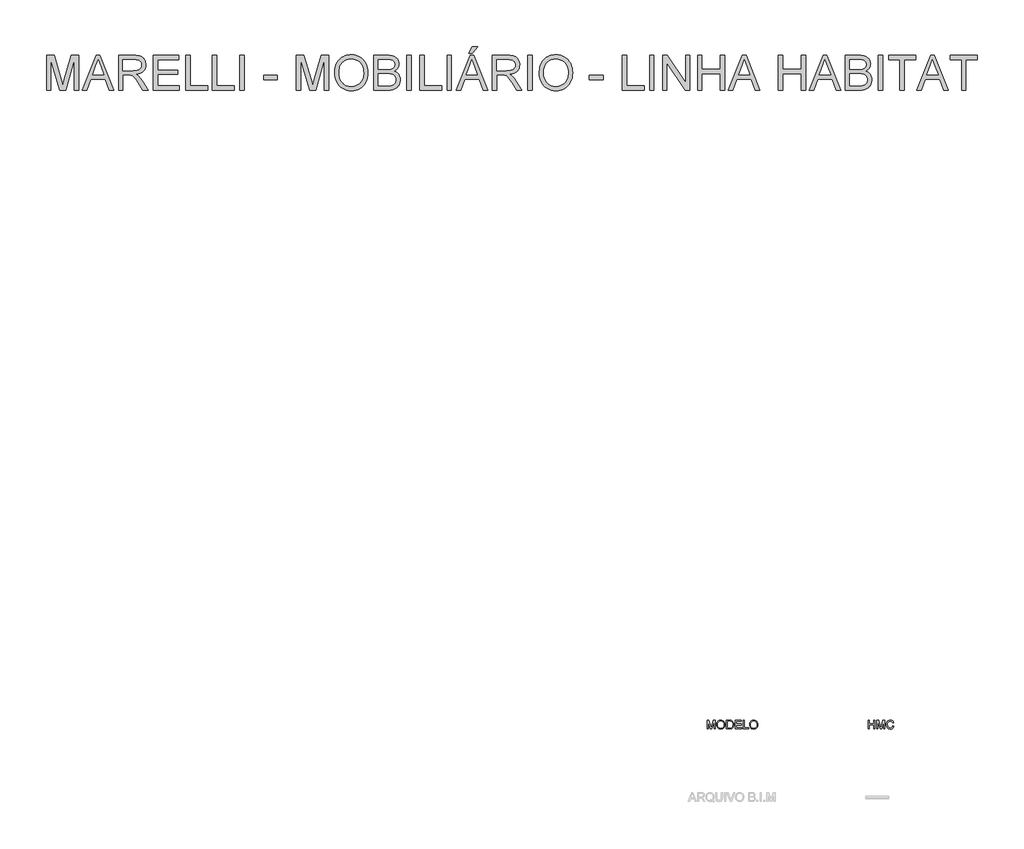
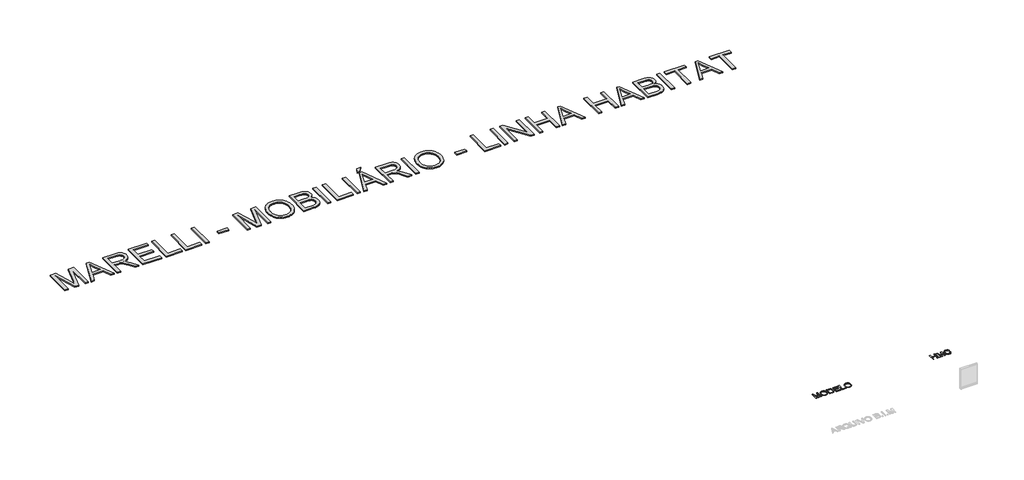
# One storey, part 8 of 8: 3 proxies.
"""IFC4 building model written with IfcOpenShell, lengths in millimetres."""

from ifc_helpers import new_model, si_unit, origin, origin_with_axes, place, context, project, spatial, polyline, outline, extrude, element, save

model = new_model("IFC4")

# Units and contexts
model_context = context("Model", 3, world=origin())
ifc_project = project(units=[si_unit("LENGTHUNIT", "METRE", prefix="MILLI")], contexts=[model_context])

# Site, building, storey
site = spatial("IfcSite", under=ifc_project)
building = spatial("IfcBuilding", under=site)
storey = spatial("IfcBuildingStorey", under=building, Name="Marelli - Linha HABITAT - Planta Baixa", Elevation=0.0)

# Proxies
placement = place(None, origin())
element("IfcBuildingElementProxy", 1, Name="1200mm Arial", ObjectType="1200mm Arial", at=placement, inside=storey, context=model_context, shape_type="SweptSolid", body=[
    extrude(outline(polyline([(7231.5865402, 28269.4336799), (7231.5865402, 29474.9094017), (7490.8697704, 29474.9094017), (7737.49786, 28625.2491457), (7787.2355057, 28447.7828712), (7841.0934298, 28639.9644255), (8083.601241, 29474.9094017), (8342.8844712, 29474.9094017), (8342.8844712, 28269.4336799), (8192.200006, 28269.4336799), (8192.200006, 29324.2249365), (7889.3595476, 28269.4336799), (7685.1114639, 28269.4336799), (7382.2710054, 29324.2249365), (7382.2710054, 28269.4336799), (7231.5865402, 28269.4336799)])), origin_with_axes(), (0.0, 0.0, 1.0), 50.0),
    extrude(outline(polyline([(8466.198516, 28269.4336799), (8947.3881657, 29474.9094017), (9075.7054056, 29474.9094017), (9556.8950553, 28269.4336799), (9397.6757278, 28269.4336799), (9259.6464032, 28646.144843), (8763.1528625, 28646.144843), (8625.4178435, 28269.4336799), (8466.198516, 28269.4336799)]), holes=[polyline([(8818.4823146, 28796.8293082), (9204.6112567, 28796.8293082), (9096.0124918, 29093.1950435), (9011.5467857, 29324.2249365), (8936.4988586, 29119.093936), (8818.4823146, 28796.8293082)])]), origin_with_axes(), (0.0, 0.0, 1.0), 50.0),
    extrude(outline(polyline([(9717.8802164, 28269.4336799), (9717.8802164, 29474.9094017), (10237.3295936, 29474.9094017), (10311.890077, 29472.8768537), (10376.9408108, 29466.7792096), (10432.481795, 29456.6164695), (10478.5130296, 29442.3886334), (10517.7108562, 29423.0012522), (10552.7516163, 29397.3598771), (10583.6353098, 29365.4645082), (10610.3619367, 29327.3151453), (10631.9290187, 29284.9627306), (10647.3340772, 29240.4582062), (10656.5771123, 29193.8015722), (10659.6581241, 29144.9928285), (10654.5537614, 29083.0782887), (10639.2406733, 29026.2405204), (10613.7188599, 28974.4795237), (10577.9883211, 28927.7952985), (10556.1798166, 28906.7294558), (10531.5892045, 28887.6777669), (10474.0616575, 28855.616851), (10405.4056801, 28831.6125509), (10325.6212724, 28815.6648664), (10375.2853418, 28783.2176744), (10411.2642009, 28751.2119408), (10472.9947997, 28678.0034238), (10533.4010233, 28596.1128916), (10734.4117455, 28269.4336799), (10559.2999158, 28269.4336799), (10402.435033, 28519.2991311), (10339.6743647, 28614.6541442), (10289.1273785, 28684.6988761), (10247.0048901, 28732.9282057), (10209.5177148, 28762.8370119), (10174.0171022, 28780.384983), (10137.8543021, 28791.5318075), (10102.611207, 28795.504933), (10050.44554, 28796.8293082), (9868.5646816, 28796.8293082), (9868.5646816, 28269.4336799), (9717.8802164, 28269.4336799)]), holes=[polyline([(9868.5646816, 28947.5137734), (10205.8388948, 28947.5137734), (10302.7022241, 28952.8480624), (10342.9944997, 28959.5159235), (10377.8605158, 28968.8509292), (10408.0820217, 28981.1197937), (10434.4407666, 28996.5892316), (10456.9367506, 29015.2592429), (10475.5699737, 29037.1298275), (10490.1840859, 29061.1249306), (10500.6227375, 29086.1684974), (10506.8859285, 29112.2605279), (10508.9736588, 29139.4010221), (10504.9913362, 29177.9366611), (10493.0443684, 29212.9038448), (10473.1327555, 29244.3025731), (10445.2564973, 29272.132846), (10408.7718004, 29294.9231356), (10363.0348713, 29311.2019139), (10308.0457101, 29320.9691808), (10243.8043167, 29324.2249365), (9868.5646816, 29324.2249365), (9868.5646816, 28947.5137734)])]), origin_with_axes(), (0.0, 0.0, 1.0), 50.0),
    extrude(outline(polyline([(10923.3559382, 28269.4336799), (10923.3559382, 29474.9094017), (11789.7916132, 29474.9094017), (11789.7916132, 29324.2249365), (11074.0404034, 29324.2249365), (11074.0404034, 28966.3493316), (11752.1204969, 28966.3493316), (11752.1204969, 28815.6648664), (11074.0404034, 28815.6648664), (11074.0404034, 28420.1181452), (11808.6271714, 28420.1181452), (11808.6271714, 28269.4336799), (10923.3559382, 28269.4336799)])), origin_with_axes(), (0.0, 0.0, 1.0), 50.0),
    extrude(outline(polyline([(12034.6538692, 28269.4336799), (12034.6538692, 29474.9094017), (12185.3383345, 29474.9094017), (12185.3383345, 28420.1181452), (12788.0761954, 28420.1181452), (12788.0761954, 28269.4336799), (12034.6538692, 28269.4336799)])), origin_with_axes(), (0.0, 0.0, 1.0), 50.0),
    extrude(outline(polyline([(12957.5962187, 28269.4336799), (12957.5962187, 29474.9094017), (13108.280684, 29474.9094017), (13108.280684, 28420.1181452), (13711.0185449, 28420.1181452), (13711.0185449, 28269.4336799), (12957.5962187, 28269.4336799)])), origin_with_axes(), (0.0, 0.0, 1.0), 50.0),
    extrude(outline(polyline([(13899.3741264, 28269.4336799), (13899.3741264, 29474.9094017), (14050.0585916, 29474.9094017), (14050.0585916, 28269.4336799), (13899.3741264, 28269.4336799)])), origin_with_axes(), (0.0, 0.0, 1.0), 50.0),
    extrude(outline(polyline([(14728.1386851, 28627.3092848), (14728.1386851, 28777.9937501), (15199.0276389, 28777.9937501), (15199.0276389, 28627.3092848), (14728.1386851, 28627.3092848)])), origin_with_axes(), (0.0, 0.0, 1.0), 50.0),
    extrude(outline(polyline([(15858.2721743, 28269.4336799), (15858.2721743, 29474.9094017), (16117.5554045, 29474.9094017), (16364.1834941, 28625.2491457), (16413.9211398, 28447.7828712), (16467.7790639, 28639.9644255), (16710.2868751, 29474.9094017), (16969.5701053, 29474.9094017), (16969.5701053, 28269.4336799), (16818.8856401, 28269.4336799), (16818.8856401, 29324.2249365), (16516.0451817, 28269.4336799), (16311.797098, 28269.4336799), (16008.9566395, 29324.2249365), (16008.9566395, 28269.4336799), (15858.2721743, 28269.4336799)])), origin_with_axes(), (0.0, 0.0, 1.0), 50.0),
    extrude(outline(polyline([(17176.761245, 28856.2790386), (17179.2720396, 28929.0047106), (17186.8044235, 28997.6744835), (17199.3583966, 29062.2883574), (17216.9339589, 29122.8463323), (17239.5311104, 29179.3484083), (17267.1498512, 29231.7945852), (17299.7901813, 29280.1848632), (17337.4521005, 29324.5192421), (17379.0825468, 29364.1815197), (17423.6284579, 29398.5554936), (17471.0898338, 29427.6411639), (17521.4666745, 29451.4385304), (17574.75898, 29469.9475933), (17630.9667504, 29483.1683525), (17690.0899855, 29491.100808), (17752.1286855, 29493.7449599), (17833.2282713, 29488.7785529), (17910.244367, 29473.8793321), (17983.1769725, 29449.0472975), (18052.0260879, 29414.2824489), (18114.8603327, 29370.6332502), (18169.7483264, 29319.148165), (18216.690069, 29259.8271932), (18255.6855605, 29192.670335), (18286.3301307, 29119.2043006), (18308.2191094, 29040.9558002), (18321.3524966, 28957.9248339), (18325.7302923, 28870.1114017), (18321.1225704, 28781.1391411), (18307.2994044, 28696.9861347), (18284.2607944, 28617.6523825), (18252.0067405, 28543.1378843), (18211.3005977, 28475.410809), (18162.9057213, 28416.4393252), (18106.8221111, 28366.2234329), (18043.0497673, 28324.763132), (17974.0994843, 28292.31594), (17902.4820569, 28269.1393743), (17828.197485, 28255.2334349), (17751.2457687, 28250.5981218), (17668.7298372, 28255.7208786), (17590.702066, 28271.0891489), (17517.1624552, 28296.7029328), (17448.1110047, 28332.5622303), (17385.3503363, 28377.2782868), (17330.6830718, 28429.4623478), (17284.1092112, 28489.1144134), (17245.6287545, 28556.2344834), (17215.4992191, 28628.1278223), (17193.9781224, 28702.0996945), (17181.0654644, 28778.1500999), (17176.761245, 28856.2790386)]), holes=[polyline([(17327.4457102, 28854.8075107), (17329.3288062, 28803.4557827), (17334.9780941, 28754.9091549), (17344.3935739, 28709.1676273), (17357.5752456, 28666.2311999), (17374.5231093, 28626.0998728), (17395.2371649, 28588.7736458), (17419.7174124, 28554.2525191), (17447.9638519, 28522.5364926), (17479.0521797, 28494.1176085), (17512.0580925, 28469.4879089), (17546.9815901, 28448.6473939), (17583.8226727, 28431.5960634), (17622.5813401, 28418.3339175), (17663.2575925, 28408.8609561), (17705.8514297, 28403.1771793), (17750.3628519, 28401.282587), (17795.688213, 28403.1955734), (17838.9580334, 28408.9345325), (17880.1723132, 28418.4994644), (17919.3310523, 28431.890369), (17956.4342508, 28449.1072464), (17991.4819086, 28470.1500965), (18024.4740258, 28495.0189194), (18055.4106023, 28523.713715), (18083.4501081, 28555.9263822), (18107.7510132, 28591.3488198), (18128.3133174, 28629.9810278), (18145.1370209, 28671.8230063), (18158.2221236, 28716.8747551), (18167.5686256, 28765.1362743), (18173.1765267, 28816.607564), (18175.0458271, 28871.288624), (18171.8452538, 28940.248104), (18162.2435337, 29004.6826355), (18146.2406669, 29064.5922184), (18123.8366534, 29119.9768528), (18095.2798135, 29170.1099717), (18060.8184676, 29214.2650081), (18020.4526157, 29252.4419622), (17974.1822578, 29284.6408338), (17923.4421336, 29310.1994354), (17869.6669829, 29328.4555794), (17812.8568058, 29339.4092659), (17753.0116023, 29343.0604947), (17710.2131306, 29341.3015589), (17668.9321723, 29336.0247515), (17629.1687271, 29327.2300726), (17590.9227952, 29314.917522), (17554.1943765, 29299.0870999), (17518.983471, 29279.7388062), (17485.2900788, 29256.872641), (17453.1141998, 29230.4886041), (17423.6606476, 29199.993486), (17398.1342356, 29164.7940768), (17376.534964, 29124.8903767), (17358.8628326, 29080.2823855), (17345.1178416, 29030.9701033), (17335.2999908, 28976.9535301), (17329.4092804, 28918.2326659), (17327.4457102, 28854.8075107)])]), origin_with_axes(), (0.0, 0.0, 1.0), 50.0),
    extrude(outline(polyline([(18532.921432, 28269.4336799), (18532.921432, 29474.9094017), (18992.9210788, 29474.9094017), (19059.6456757, 29472.6929127), (19119.4356969, 29466.0434456), (19172.2911426, 29454.9610005), (19218.2120126, 29439.4455774), (19258.3663324, 29419.3316293), (19293.9221273, 29394.4536094), (19324.8793971, 29364.8115176), (19351.2381421, 29330.405354), (19372.2901893, 29293.1756961), (19387.3273658, 29255.0631214), (19396.3496718, 29216.0676299), (19399.3571071, 29176.1892216), (19396.8279184, 29139.3550369), (19389.2403522, 29103.606104), (19376.5944086, 29068.942423), (19358.8900876, 29035.3639939), (19336.0722069, 29003.9192804), (19308.0855841, 28975.6567461), (19274.9302193, 28950.5763911), (19236.6061124, 28928.6782153), (19282.0855241, 28909.2908341), (19321.9915235, 28884.0909175), (19356.3241107, 28853.0784653), (19385.0832857, 28816.2534776), (19407.8091959, 28774.7379944), (19424.0419889, 28729.6540559), (19433.7816648, 28681.001662), (19437.0282234, 28628.7808128), (19434.8117344, 28585.9869397), (19428.1622673, 28544.7197769), (19417.0798222, 28504.9793244), (19401.564399, 28466.7655821), (19382.7748261, 28431.4673047), (19361.8699318, 28400.4732466), (19338.8497159, 28373.7834079), (19313.7141786, 28351.3977885), (19285.8747086, 28332.3966834), (19254.7426948, 28315.8603877), (19220.3181371, 28301.7889014), (19182.6010355, 28290.1822245), (19141.0027789, 28281.1047362), (19094.9347561, 28274.6208161), (18989.3894116, 28269.4336799), (18532.921432, 28269.4336799)]), holes=[polyline([(18683.6058973, 28985.1848897), (18958.7816296, 28985.1848897), (19055.0195596, 28988.4222513), (19119.4724851, 28998.134336), (19149.5744294, 29007.9108), (19175.7216422, 29020.4647731), (19197.9141236, 29035.7962552), (19216.1518735, 29053.9052464), (19230.3797096, 29074.662988), (19240.5424498, 29097.9407213), (19246.6400938, 29123.7384462), (19248.6726418, 29152.0561628), (19246.7780496, 29179.1690658), (19241.0942727, 29204.5897117), (19231.6213114, 29228.3181004), (19218.3591654, 29250.3542319), (19201.5653524, 29269.8795688), (19181.4973895, 29286.0755736), (19158.1552769, 29298.9422464), (19131.5390146, 29308.4795871), (19098.245694, 29315.3681775), (19054.8724068, 29320.2885992), (18937.8859323, 29324.2249365), (18683.6058973, 29324.2249365), (18683.6058973, 28985.1848897)]), polyline([(18683.6058973, 28420.1181452), (18992.6267732, 28420.1181452), (19060.3170603, 28421.5896731), (19104.4628997, 28426.0042571), (19156.3710493, 28439.0640679), (19199.0821489, 28458.819331), (19233.8102092, 28487.1094565), (19261.7692409, 28525.7738542), (19272.5205922, 28548.5641438), (19280.2001288, 28573.0834788), (19284.8078508, 28599.3318591), (19286.3437582, 28627.3092848), (19284.5411364, 28659.9036296), (19279.133271, 28690.2906824), (19270.1201622, 28718.4704432), (19257.5018097, 28744.4429121), (19240.8459524, 28767.463128), (19219.7203288, 28786.7861297), (19194.124939, 28802.4119175), (19164.059783, 28814.3404912), (19128.2004855, 28823.160462), (19085.2226714, 28829.4604412), (18977.9114934, 28834.5004245), (18683.6058973, 28834.5004245), (18683.6058973, 28420.1181452)])]), origin_with_axes(), (0.0, 0.0, 1.0), 50.0),
    extrude(outline(polyline([(19663.0549212, 28269.4336799), (19663.0549212, 29474.9094017), (19813.7393864, 29474.9094017), (19813.7393864, 28269.4336799), (19663.0549212, 28269.4336799)])), origin_with_axes(), (0.0, 0.0, 1.0), 50.0),
    extrude(outline(polyline([(20115.1083169, 28269.4336799), (20115.1083169, 29474.9094017), (20265.7927821, 29474.9094017), (20265.7927821, 28420.1181452), (20868.530643, 28420.1181452), (20868.530643, 28269.4336799), (20115.1083169, 28269.4336799)])), origin_with_axes(), (0.0, 0.0, 1.0), 50.0),
    extrude(outline(polyline([(21056.8862245, 28269.4336799), (21056.8862245, 29474.9094017), (21207.5706898, 29474.9094017), (21207.5706898, 28269.4336799), (21056.8862245, 28269.4336799)])), origin_with_axes(), (0.0, 0.0, 1.0), 50.0),
    extrude(outline(polyline([(21368.5558509, 28269.4336799), (21849.7455005, 29474.9094017), (21978.0627405, 29474.9094017), (22459.2523902, 28269.4336799), (22300.0330626, 28269.4336799), (22162.0037381, 28646.144843), (21665.5101974, 28646.144843), (21527.7751784, 28269.4336799), (21368.5558509, 28269.4336799)]), holes=[polyline([(21720.8396494, 28796.8293082), (22106.9685916, 28796.8293082), (21998.3698266, 29093.1950435), (21913.9041205, 29324.2249365), (21838.8561935, 29119.093936), (21720.8396494, 28796.8293082)])]), origin_with_axes(), (0.0, 0.0, 1.0), 50.0),
    extrude(outline(polyline([(21810.3085507, 29550.2516343), (21923.3218996, 29776.2783322), (22111.6774811, 29776.2783322), (21923.3218996, 29550.2516343), (21810.3085507, 29550.2516343)])), origin_with_axes(), (0.0, 0.0, 1.0), 50.0),
    extrude(outline(polyline([(22620.2375512, 28269.4336799), (22620.2375512, 29474.9094017), (23139.6869284, 29474.9094017), (23214.2474118, 29472.8768537), (23279.2981456, 29466.7792096), (23334.8391298, 29456.6164695), (23380.8703645, 29442.3886334), (23420.0681911, 29423.0012522), (23455.1089511, 29397.3598771), (23485.9926446, 29365.4645082), (23512.7192715, 29327.3151453), (23534.2863535, 29284.9627306), (23549.6914121, 29240.4582062), (23558.9344472, 29193.8015722), (23562.0154589, 29144.9928285), (23556.9110962, 29083.0782887), (23541.5980082, 29026.2405204), (23516.0761947, 28974.4795237), (23480.345656, 28927.7952985), (23458.5371514, 28906.7294558), (23433.9465393, 28887.6777669), (23376.4189923, 28855.616851), (23307.763015, 28831.6125509), (23227.9786073, 28815.6648664), (23277.6426766, 28783.2176744), (23313.6215358, 28751.2119408), (23375.3521345, 28678.0034238), (23435.7583582, 28596.1128916), (23636.7690803, 28269.4336799), (23461.6572506, 28269.4336799), (23304.7923679, 28519.2991311), (23242.0316995, 28614.6541442), (23191.4847134, 28684.6988761), (23149.3622249, 28732.9282057), (23111.8750496, 28762.8370119), (23076.3744371, 28780.384983), (23040.2116369, 28791.5318075), (23004.9685418, 28795.504933), (22952.8028749, 28796.8293082), (22770.9220165, 28796.8293082), (22770.9220165, 28269.4336799), (22620.2375512, 28269.4336799)]), holes=[polyline([(22770.9220165, 28947.5137734), (23108.1962296, 28947.5137734), (23205.059559, 28952.8480624), (23245.3518345, 28959.5159235), (23280.2178506, 28968.8509292), (23310.4393565, 28981.1197937), (23336.7981015, 28996.5892316), (23359.2940855, 29015.2592429), (23377.9273085, 29037.1298275), (23392.5414208, 29061.1249306), (23402.9800724, 29086.1684974), (23409.2432634, 29112.2605279), (23411.3309937, 29139.4010221), (23407.3486711, 29177.9366611), (23395.4017033, 29212.9038448), (23375.4900903, 29244.3025731), (23347.6138321, 29272.132846), (23311.1291352, 29294.9231356), (23265.3922062, 29311.2019139), (23210.403045, 29320.9691808), (23146.1616515, 29324.2249365), (22770.9220165, 29324.2249365), (22770.9220165, 28947.5137734)])]), origin_with_axes(), (0.0, 0.0, 1.0), 50.0),
    extrude(outline(polyline([(23844.5488312, 28269.4336799), (23844.5488312, 29474.9094017), (23995.2332964, 29474.9094017), (23995.2332964, 28269.4336799), (23844.5488312, 28269.4336799)])), origin_with_axes(), (0.0, 0.0, 1.0), 50.0),
    extrude(outline(polyline([(24240.0955524, 28856.2790386), (24242.606347, 28929.0047106), (24250.1387309, 28997.6744835), (24262.692704, 29062.2883574), (24280.2682663, 29122.8463323), (24302.8654178, 29179.3484083), (24330.4841586, 29231.7945852), (24363.1244886, 29280.1848632), (24400.7864079, 29324.5192421), (24442.4168542, 29364.1815197), (24486.9627653, 29398.5554936), (24534.4241412, 29427.6411639), (24584.8009819, 29451.4385304), (24638.0932874, 29469.9475933), (24694.3010578, 29483.1683525), (24753.4242929, 29491.100808), (24815.4629929, 29493.7449599), (24896.5625787, 29488.7785529), (24973.5786744, 29473.8793321), (25046.5112799, 29449.0472975), (25115.3603953, 29414.2824489), (25178.1946401, 29370.6332502), (25233.0826338, 29319.148165), (25280.0243764, 29259.8271932), (25319.0198679, 29192.670335), (25349.6644381, 29119.2043006), (25371.5534168, 29040.9558002), (25384.686804, 28957.9248339), (25389.0645997, 28870.1114017), (25384.4568778, 28781.1391411), (25370.6337118, 28696.9861347), (25347.5951018, 28617.6523825), (25315.3410479, 28543.1378843), (25274.6349051, 28475.410809), (25226.2400287, 28416.4393252), (25170.1564185, 28366.2234329), (25106.3840746, 28324.763132), (25037.4337917, 28292.31594), (24965.8163643, 28269.1393743), (24891.5317924, 28255.2334349), (24814.5800761, 28250.5981218), (24732.0641446, 28255.7208786), (24654.0363734, 28271.0891489), (24580.4967625, 28296.7029328), (24511.445312, 28332.5622303), (24448.6846437, 28377.2782868), (24394.0173792, 28429.4623478), (24347.4435186, 28489.1144134), (24308.9630619, 28556.2344834), (24278.8335265, 28628.1278223), (24257.3124298, 28702.0996945), (24244.3997718, 28778.1500999), (24240.0955524, 28856.2790386)]), holes=[polyline([(24390.7800176, 28854.8075107), (24392.6631136, 28803.4557827), (24398.3124015, 28754.9091549), (24407.7278813, 28709.1676273), (24420.909553, 28666.2311999), (24437.8574167, 28626.0998728), (24458.5714723, 28588.7736458), (24483.0517198, 28554.2525191), (24511.2981593, 28522.5364926), (24542.3864871, 28494.1176085), (24575.3923999, 28469.4879089), (24610.3158975, 28448.6473939), (24647.1569801, 28431.5960634), (24685.9156475, 28418.3339175), (24726.5918999, 28408.8609561), (24769.1857371, 28403.1771793), (24813.6971593, 28401.282587), (24859.0225204, 28403.1955734), (24902.2923408, 28408.9345325), (24943.5066205, 28418.4994644), (24982.6653597, 28431.890369), (25019.7685581, 28449.1072464), (25054.816216, 28470.1500965), (25087.8083332, 28495.0189194), (25118.7449097, 28523.713715), (25146.7844155, 28555.9263822), (25171.0853206, 28591.3488198), (25191.6476248, 28629.9810278), (25208.4713283, 28671.8230063), (25221.556431, 28716.8747551), (25230.902933, 28765.1362743), (25236.5108341, 28816.607564), (25238.3801345, 28871.288624), (25235.1795612, 28940.248104), (25225.5778411, 29004.6826355), (25209.5749743, 29064.5922184), (25187.1709608, 29119.9768528), (25158.6141209, 29170.1099717), (25124.152775, 29214.2650081), (25083.7869231, 29252.4419622), (25037.5165652, 29284.6408338), (24986.776441, 29310.1994354), (24933.0012903, 29328.4555794), (24876.1911132, 29339.4092659), (24816.3459097, 29343.0604947), (24773.547438, 29341.3015589), (24732.2664797, 29336.0247515), (24692.5030345, 29327.2300726), (24654.2571026, 29314.917522), (24617.5286839, 29299.0870999), (24582.3177784, 29279.7388062), (24548.6243862, 29256.872641), (24516.4485072, 29230.4886041), (24486.9949549, 29199.993486), (24461.468543, 29164.7940768), (24439.8692714, 29124.8903767), (24422.19714, 29080.2823855), (24408.452149, 29030.9701033), (24398.6342982, 28976.9535301), (24392.7435878, 28918.2326659), (24390.7800176, 28854.8075107)])]), origin_with_axes(), (0.0, 0.0, 1.0), 50.0),
    extrude(outline(polyline([(25972.9669025, 28627.3092848), (25972.9669025, 28777.9937501), (26443.8558563, 28777.9937501), (26443.8558563, 28627.3092848), (25972.9669025, 28627.3092848)])), origin_with_axes(), (0.0, 0.0, 1.0), 50.0),
    extrude(outline(polyline([(27103.1003917, 28269.4336799), (27103.1003917, 29474.9094017), (27253.7848569, 29474.9094017), (27253.7848569, 28420.1181452), (27856.5227178, 28420.1181452), (27856.5227178, 28269.4336799), (27103.1003917, 28269.4336799)])), origin_with_axes(), (0.0, 0.0, 1.0), 50.0),
    extrude(outline(polyline([(28044.8782993, 28269.4336799), (28044.8782993, 29474.9094017), (28195.5627645, 29474.9094017), (28195.5627645, 28269.4336799), (28044.8782993, 28269.4336799)])), origin_with_axes(), (0.0, 0.0, 1.0), 50.0),
    extrude(outline(polyline([(28496.931695, 28269.4336799), (28496.931695, 29474.9094017), (28658.2111617, 29474.9094017), (29288.0251374, 28519.8877422), (29288.0251374, 29474.9094017), (29438.7096026, 29474.9094017), (29438.7096026, 28269.4336799), (29277.430136, 28269.4336799), (28647.6161602, 29224.749645), (28647.6161602, 28269.4336799), (28496.931695, 28269.4336799)])), origin_with_axes(), (0.0, 0.0, 1.0), 50.0),
    extrude(outline(polyline([(29702.4074168, 28269.4336799), (29702.4074168, 29474.9094017), (29853.091882, 29474.9094017), (29853.091882, 28985.1848897), (30493.5008592, 28985.1848897), (30493.5008592, 29474.9094017), (30644.1853244, 29474.9094017), (30644.1853244, 28269.4336799), (30493.5008592, 28269.4336799), (30493.5008592, 28834.5004245), (29853.091882, 28834.5004245), (29853.091882, 28269.4336799), (29702.4074168, 28269.4336799)])), origin_with_axes(), (0.0, 0.0, 1.0), 50.0),
    extrude(outline(polyline([(30767.4993692, 28269.4336799), (31248.6890189, 29474.9094017), (31377.0062588, 29474.9094017), (31858.1959085, 28269.4336799), (31698.976581, 28269.4336799), (31560.9472564, 28646.144843), (31064.4537157, 28646.144843), (30926.7186967, 28269.4336799), (30767.4993692, 28269.4336799)]), holes=[polyline([(31119.7831678, 28796.8293082), (31505.9121099, 28796.8293082), (31397.313345, 29093.1950435), (31312.8476389, 29324.2249365), (31237.7997119, 29119.093936), (31119.7831678, 28796.8293082)])]), origin_with_axes(), (0.0, 0.0, 1.0), 50.0),
    extrude(outline(polyline([(32490.0700234, 28269.4336799), (32490.0700234, 29474.9094017), (32640.7544887, 29474.9094017), (32640.7544887, 28985.1848897), (33281.1634659, 28985.1848897), (33281.1634659, 29474.9094017), (33431.8479311, 29474.9094017), (33431.8479311, 28269.4336799), (33281.1634659, 28269.4336799), (33281.1634659, 28834.5004245), (32640.7544887, 28834.5004245), (32640.7544887, 28269.4336799), (32490.0700234, 28269.4336799)])), origin_with_axes(), (0.0, 0.0, 1.0), 50.0),
    extrude(outline(polyline([(33555.1619759, 28269.4336799), (34036.3516256, 29474.9094017), (34164.6688655, 29474.9094017), (34645.8585152, 28269.4336799), (34486.6391877, 28269.4336799), (34348.6098631, 28646.144843), (33852.1163224, 28646.144843), (33714.3813034, 28269.4336799), (33555.1619759, 28269.4336799)]), holes=[polyline([(33907.4457745, 28796.8293082), (34293.5747166, 28796.8293082), (34184.9759516, 29093.1950435), (34100.5102455, 29324.2249365), (34025.4623185, 29119.093936), (33907.4457745, 28796.8293082)])]), origin_with_axes(), (0.0, 0.0, 1.0), 50.0),
    extrude(outline(polyline([(34806.8436763, 28269.4336799), (34806.8436763, 29474.9094017), (35266.843323, 29474.9094017), (35333.5679199, 29472.6929127), (35393.3579412, 29466.0434456), (35446.2133868, 29454.9610005), (35492.1342569, 29439.4455774), (35532.2885767, 29419.3316293), (35567.8443715, 29394.4536094), (35598.8016414, 29364.8115176), (35625.1603863, 29330.405354), (35646.2124335, 29293.1756961), (35661.2496101, 29255.0631214), (35670.271916, 29216.0676299), (35673.2793513, 29176.1892216), (35670.7501626, 29139.3550369), (35663.1625964, 29103.606104), (35650.5166529, 29068.942423), (35632.8123318, 29035.3639939), (35609.9944511, 29003.9192804), (35582.0078283, 28975.6567461), (35548.8524635, 28950.5763911), (35510.5283566, 28928.6782153), (35556.0077683, 28909.2908341), (35595.9137677, 28884.0909175), (35630.2463549, 28853.0784653), (35659.0055299, 28816.2534776), (35681.7314401, 28774.7379944), (35697.9642332, 28729.6540559), (35707.703909, 28681.001662), (35710.9504676, 28628.7808128), (35708.7339786, 28585.9869397), (35702.0845115, 28544.7197769), (35691.0020664, 28504.9793244), (35675.4866433, 28466.7655821), (35656.6970704, 28431.4673047), (35635.792176, 28400.4732466), (35612.7719602, 28373.7834079), (35587.6364228, 28351.3977885), (35559.7969528, 28332.3966834), (35528.664939, 28315.8603877), (35494.2403813, 28301.7889014), (35456.5232798, 28290.1822245), (35414.9250231, 28281.1047362), (35368.8570003, 28274.6208161), (35263.3116559, 28269.4336799), (34806.8436763, 28269.4336799)]), holes=[polyline([(34957.5281415, 28985.1848897), (35232.7038739, 28985.1848897), (35328.9418038, 28988.4222513), (35393.3947294, 28998.134336), (35423.4966736, 29007.9108), (35449.6438864, 29020.4647731), (35471.8363678, 29035.7962552), (35490.0741177, 29053.9052464), (35504.3019539, 29074.662988), (35514.464694, 29097.9407213), (35520.5623381, 29123.7384462), (35522.5948861, 29152.0561628), (35520.7002938, 29179.1690658), (35515.016517, 29204.5897117), (35505.5435556, 29228.3181004), (35492.2814097, 29250.3542319), (35475.4875966, 29269.8795688), (35455.4196338, 29286.0755736), (35432.0775212, 29298.9422464), (35405.4612588, 29308.4795871), (35372.1679383, 29315.3681775), (35328.794651, 29320.2885992), (35211.8081766, 29324.2249365), (34957.5281415, 29324.2249365), (34957.5281415, 28985.1848897)]), polyline([(34957.5281415, 28420.1181452), (35266.5490174, 28420.1181452), (35334.2393046, 28421.5896731), (35378.385144, 28426.0042571), (35430.2932935, 28439.0640679), (35473.0043931, 28458.819331), (35507.7324535, 28487.1094565), (35535.6914851, 28525.7738542), (35546.4428364, 28548.5641438), (35554.1223731, 28573.0834788), (35558.7300951, 28599.3318591), (35560.2660024, 28627.3092848), (35558.4633806, 28659.9036296), (35553.0555153, 28690.2906824), (35544.0424064, 28718.4704432), (35531.424054, 28744.4429121), (35514.7681966, 28767.463128), (35493.6425731, 28786.7861297), (35468.0471833, 28802.4119175), (35437.9820272, 28814.3404912), (35402.1227297, 28823.160462), (35359.1449156, 28829.4604412), (35251.8337376, 28834.5004245), (34957.5281415, 28834.5004245), (34957.5281415, 28420.1181452)])]), origin_with_axes(), (0.0, 0.0, 1.0), 50.0),
    extrude(outline(polyline([(35936.9771655, 28269.4336799), (35936.9771655, 29474.9094017), (36087.6616307, 29474.9094017), (36087.6616307, 28269.4336799), (35936.9771655, 28269.4336799)])), origin_with_axes(), (0.0, 0.0, 1.0), 50.0),
    extrude(outline(polyline([(36690.3994916, 28269.4336799), (36690.3994916, 29324.2249365), (36294.8527704, 29324.2249365), (36294.8527704, 29474.9094017), (37236.630678, 29474.9094017), (37236.630678, 29324.2249365), (36841.0839568, 29324.2249365), (36841.0839568, 28269.4336799), (36690.3994916, 28269.4336799)])), origin_with_axes(), (0.0, 0.0, 1.0), 50.0),
    extrude(outline(polyline([(37265.766932, 28269.4336799), (37746.9565817, 29474.9094017), (37875.2738216, 29474.9094017), (38356.4634713, 28269.4336799), (38197.2441438, 28269.4336799), (38059.2148192, 28646.144843), (37562.7212785, 28646.144843), (37424.9862595, 28269.4336799), (37265.766932, 28269.4336799)]), holes=[polyline([(37618.0507306, 28796.8293082), (38004.1796728, 28796.8293082), (37895.5809078, 29093.1950435), (37811.1152017, 29324.2249365), (37736.0672747, 29119.093936), (37618.0507306, 28796.8293082)])]), origin_with_axes(), (0.0, 0.0, 1.0), 50.0),
    extrude(outline(polyline([(38818.8175629, 28269.4336799), (38818.8175629, 29324.2249365), (38423.2708417, 29324.2249365), (38423.2708417, 29474.9094017), (39365.0487493, 29474.9094017), (39365.0487493, 29324.2249365), (38969.5020281, 29324.2249365), (38969.5020281, 28269.4336799), (38818.8175629, 28269.4336799)])), origin_with_axes(), (0.0, 0.0, 1.0), 50.0),
])
element("IfcBuildingElementProxy", 2, Name="300mm Arial", ObjectType="300mm Arial", at=placement, inside=storey, context=model_context, shape_type="SweptSolid", body=[
    extrude(outline(polyline([(35588.7720603, 6219.4336799), (35588.7720603, 6520.8026104), (35626.4431766, 6520.8026104), (35626.4431766, 6398.3714824), (35786.5454209, 6398.3714824), (35786.5454209, 6520.8026104), (35824.2165372, 6520.8026104), (35824.2165372, 6219.4336799), (35786.5454209, 6219.4336799), (35786.5454209, 6360.7003661), (35626.4431766, 6360.7003661), (35626.4431766, 6219.4336799), (35588.7720603, 6219.4336799)])), origin_with_axes(), (0.0, 0.0, 1.0), 10.0),
    extrude(outline(polyline([(35890.1409908, 6219.4336799), (35890.1409908, 6520.8026104), (35954.9617983, 6520.8026104), (36016.6188207, 6308.3875464), (36029.0532321, 6264.0209777), (36042.5177132, 6312.0663663), (36103.144666, 6520.8026104), (36167.9654735, 6520.8026104), (36167.9654735, 6219.4336799), (36130.2943572, 6219.4336799), (36130.2943572, 6483.1314941), (36054.5842426, 6219.4336799), (36003.5222217, 6219.4336799), (35927.8121071, 6483.1314941), (35927.8121071, 6219.4336799), (35890.1409908, 6219.4336799)])), origin_with_axes(), (0.0, 0.0, 1.0), 10.0),
    extrude(outline(polyline([(36445.7899563, 6326.5609169), (36483.4610726, 6316.8488323), (36476.0068636, 6293.4216469), (36466.0786483, 6272.9513132), (36453.6764265, 6255.4378309), (36438.8001984, 6240.8812003), (36421.7856561, 6229.4377709), (36402.968492, 6221.2638929), (36382.3487062, 6216.359566), (36359.9262986, 6214.7247904), (36316.2311146, 6219.6728032), (36281.5306454, 6234.5168417), (36254.9327772, 6258.7418711), (36235.545396, 6291.8328566), (36223.7087928, 6330.7363776), (36219.7632584, 6372.3990135), (36224.2238276, 6416.3425179), (36237.6055352, 6454.2895457), (36259.2094054, 6485.0352834), (36288.3364623, 6507.3749176), (36322.8805817, 6520.9773543), (36360.735639, 6525.5114999), (36402.03959, 6519.6437821), (36420.0083262, 6512.3091348), (36436.1882362, 6502.0406286), (36450.3126055, 6489.1095765), (36462.1147198, 6473.7872914), (36478.752183, 6435.9690223), (36441.0810667, 6426.9927016), (36428.0212559, 6454.4642896), (36410.1789791, 6473.3090448), (36387.3335072, 6484.2075489), (36359.264111, 6487.8403836), (36326.9088895, 6483.8120758), (36300.3294154, 6471.7271522), (36280.160285, 6452.8548059), (36267.0360948, 6428.4642296), (36259.8348048, 6400.8914741), (36257.4343747, 6372.4725899), (36260.2762631, 6337.6709532), (36268.8019284, 6307.578206), (36283.3332672, 6283.3439795), (36304.1921763, 6266.1179051), (36329.1989549, 6255.8264063), (36356.1739022, 6252.3959067), (36387.6186158, 6257.068008), (36413.8210109, 6271.0843121), (36433.6038652, 6294.297666), (36445.7899563, 6326.5609169)])), origin_with_axes(), (0.0, 0.0, 1.0), 10.0),
])
element("IfcBuildingElementProxy", 3, Name="300mm Arial", ObjectType="300mm Arial", at=placement, inside=storey, context=model_context, shape_type="SweptSolid", body=[
    extrude(outline(polyline([(30033.1230948, 6219.4336799), (30033.1230948, 6520.8026104), (30097.9439023, 6520.8026104), (30159.6009247, 6308.3875464), (30172.0353362, 6264.0209777), (30185.4998172, 6312.0663663), (30246.12677, 6520.8026104), (30310.9475775, 6520.8026104), (30310.9475775, 6219.4336799), (30273.2764612, 6219.4336799), (30273.2764612, 6483.1314941), (30197.5663466, 6219.4336799), (30146.5043257, 6219.4336799), (30070.7942111, 6483.1314941), (30070.7942111, 6219.4336799), (30033.1230948, 6219.4336799)])), origin_with_axes(), (0.0, 0.0, 1.0), 10.0),
    extrude(outline(polyline([(30362.7453625, 6366.1450196), (30365.2561571, 6401.4938808), (30372.7885409, 6432.786843), (30385.342514, 6460.0239063), (30402.9180763, 6483.2050705), (30424.4621657, 6501.7141334), (30448.9217198, 6514.9348926), (30476.2967388, 6522.8673481), (30506.5872226, 6525.5114999), (30546.116143, 6520.545093), (30581.5615732, 6505.6458722), (30610.9921328, 6481.8623012), (30632.4764413, 6450.2428437), (30645.6098286, 6412.31421), (30649.9876243, 6369.6031104), (30645.3799023, 6326.3217936), (30631.5567363, 6287.859731), (30609.2814815, 6256.1850912), (30579.317493, 6233.266043), (30544.1755654, 6219.3601035), (30506.3664934, 6214.7247904), (30466.2305677, 6219.8475472), (30430.5828024, 6235.2158175), (30401.2258192, 6259.4408469), (30379.9622398, 6291.1338808), (30367.0495818, 6327.6001836), (30362.7453625, 6366.1450196)]), holes=[polyline([(30400.4164788, 6365.7771376), (30402.2995747, 6340.8025487), (30407.9488626, 6318.6330599), (30417.3643424, 6299.2686714), (30430.5460142, 6282.7093831), (30446.5695743, 6269.4472372), (30464.5107194, 6259.9742758), (30484.3694493, 6254.290499), (30506.1457642, 6252.3959067), (30528.2945596, 6254.3088931), (30548.3878143, 6260.0478522), (30566.4255284, 6269.6127841), (30582.4077018, 6283.0036887), (30595.4928045, 6299.9124649), (30604.8393064, 6320.0310115), (30610.4472076, 6343.3593285), (30612.316508, 6369.897416), (30609.1159346, 6403.2459188), (30599.5142146, 6432.0694731), (30583.7596681, 6455.641512), (30562.1006157, 6473.2354684), (30535.9717969, 6484.1891548), (30506.8079518, 6487.8403836), (30485.7880943, 6486.0814478), (30466.28575, 6480.8046405), (30448.300919, 6472.0099615), (30431.8336012, 6459.697411), (30418.0886101, 6443.2737792), (30408.2707594, 6422.1458563), (30402.3800489, 6396.3136425), (30400.4164788, 6365.7771376)])]), origin_with_axes(), (0.0, 0.0, 1.0), 10.0),
    extrude(outline(polyline([(30701.7854092, 6219.4336799), (30701.7854092, 6520.8026104), (30805.7488611, 6520.8026104), (30859.5332088, 6516.4616028), (30883.555903, 6508.0922874), (30903.826201, 6494.9037179), (30924.666716, 6471.9478814), (30939.5107545, 6443.4002386), (30948.3951047, 6409.8126124), (30951.3565547, 6371.7368259), (30949.3515979, 6339.3908015), (30943.3367273, 6310.9259321), (30934.1764656, 6286.6917057), (30922.7353355, 6267.0376101), (30909.5651601, 6251.522187), (30895.2177623, 6239.7039779), (30878.745846, 6230.9391893), (30859.202115, 6224.5840279), (30810.7520562, 6219.4336799), (30701.7854092, 6219.4336799)]), holes=[polyline([(30739.4565255, 6257.1047962), (30806.1167431, 6257.1047962), (30833.6894986, 6258.4659596), (30854.60359, 6262.5494498), (30870.3857276, 6269.1161434), (30882.5626217, 6277.9269172), (30895.6500236, 6294.2332866), (30905.48167, 6315.3405161), (30911.6344963, 6341.3405761), (30913.6854384, 6372.3254371), (30909.6663276, 6413.3810678), (30897.6089953, 6443.6945442), (30879.7943096, 6464.5166651), (30858.5031392, 6477.0982294), (30836.8348897, 6481.6231779), (30805.0866735, 6483.1314941), (30739.4565255, 6483.1314941), (30739.4565255, 6257.1047962)])]), origin_with_axes(), (0.0, 0.0, 1.0), 10.0),
    extrude(outline(polyline([(31003.1543397, 6219.4336799), (31003.1543397, 6520.8026104), (31219.7632584, 6520.8026104), (31219.7632584, 6483.1314941), (31040.825456, 6483.1314941), (31040.825456, 6393.6625928), (31210.3454794, 6393.6625928), (31210.3454794, 6355.9914765), (31040.825456, 6355.9914765), (31040.825456, 6257.1047962), (31224.472148, 6257.1047962), (31224.472148, 6219.4336799), (31003.1543397, 6219.4336799)])), origin_with_axes(), (0.0, 0.0, 1.0), 10.0),
    extrude(outline(polyline([(31280.9788224, 6219.4336799), (31280.9788224, 6520.8026104), (31318.6499387, 6520.8026104), (31318.6499387, 6257.1047962), (31469.334404, 6257.1047962), (31469.334404, 6219.4336799), (31280.9788224, 6219.4336799)])), origin_with_axes(), (0.0, 0.0, 1.0), 10.0),
    extrude(outline(polyline([(31497.5877412, 6366.1450196), (31500.0985358, 6401.4938808), (31507.6309197, 6432.786843), (31520.1848927, 6460.0239063), (31537.7604551, 6483.2050705), (31559.3045444, 6501.7141334), (31583.7640986, 6514.9348926), (31611.1391175, 6522.8673481), (31641.4296013, 6525.5114999), (31680.9585217, 6520.545093), (31716.4039519, 6505.6458722), (31745.8345115, 6481.8623012), (31767.3188201, 6450.2428437), (31780.4522073, 6412.31421), (31784.830003, 6369.6031104), (31780.222281, 6326.3217936), (31766.3991151, 6287.859731), (31744.1238603, 6256.1850912), (31714.1598717, 6233.266043), (31679.0179442, 6219.3601035), (31641.2088721, 6214.7247904), (31601.0729464, 6219.8475472), (31565.4251811, 6235.2158175), (31536.0681979, 6259.4408469), (31514.8046186, 6291.1338808), (31501.8919605, 6327.6001836), (31497.5877412, 6366.1450196)]), holes=[polyline([(31535.2588575, 6365.7771376), (31537.1419535, 6340.8025487), (31542.7912413, 6318.6330599), (31552.2067212, 6299.2686714), (31565.3883929, 6282.7093831), (31581.4119531, 6269.4472372), (31599.3530981, 6259.9742758), (31619.2118281, 6254.290499), (31640.9881429, 6252.3959067), (31663.1369383, 6254.3088931), (31683.230193, 6260.0478522), (31701.2679071, 6269.6127841), (31717.2500805, 6283.0036887), (31730.3351832, 6299.9124649), (31739.6816852, 6320.0310115), (31745.2895863, 6343.3593285), (31747.1588867, 6369.897416), (31743.9583134, 6403.2459188), (31734.3565933, 6432.0694731), (31718.6020468, 6455.641512), (31696.9429944, 6473.2354684), (31670.8141757, 6484.1891548), (31641.6503305, 6487.8403836), (31620.630473, 6486.0814478), (31601.1281287, 6480.8046405), (31583.1432977, 6472.0099615), (31566.6759799, 6459.697411), (31552.9309888, 6443.2737792), (31543.1131381, 6422.1458563), (31537.2224276, 6396.3136425), (31535.2588575, 6365.7771376)])]), origin_with_axes(), (0.0, 0.0, 1.0), 10.0),
])

save(model, "model.ifc")
